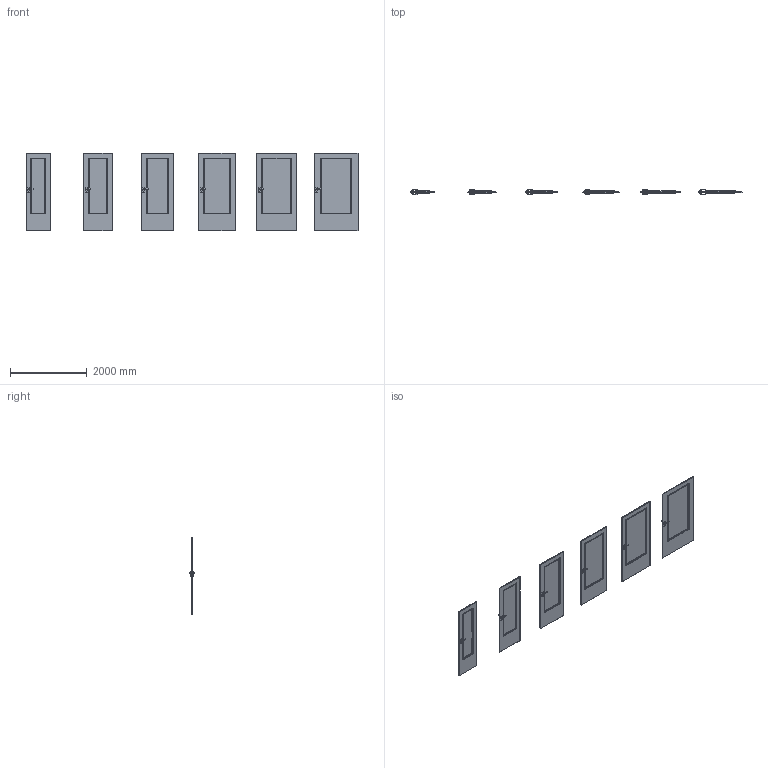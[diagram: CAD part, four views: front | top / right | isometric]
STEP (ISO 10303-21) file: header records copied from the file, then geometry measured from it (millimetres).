
FILE_DESCRIPTION(/* description */ (''),/* implementation_level */ '2;1');
FILE_NAME(/* name */ '049713_A_2-Skrzydło CPL model 1.3_ polska norma _PN__ przylgowe..stp',/* time_stamp */ '2024-02-15T10:13:52+01:00',/* author */ (''),/* organization */ (''),/* preprocessor_version */ 'ST-DEVELOPER v16',/* originating_system */ 'SIEMENS PLM Software NX 11.0',/* authorisation */ '');
FILE_SCHEMA (('AUTOMOTIVE_DESIGN { 1 0 10303 214 3 1 1 1 }'));
Products named in the file (1): bkni76F8D571w1wb
Bounding box: 8644 x 153.27 x 2030 mm (x, y, z)
Volume: 282807684.3 mm3; surface area: 49016290.1 mm2
Topology: 217 solids, 217 shells, 4032 faces, 10266 edges, 6548 vertices
Faces by surface type: plane 2394, bspline 1182, cylinder 288, sphere 168
Entity records: 137846 total; most frequent: CARTESIAN_POINT 49301, ORIENTED_EDGE 20196, DIRECTION 14360, EDGE_CURVE 10098, LINE 6858, VECTOR 6858, VERTEX_POINT 6548, EDGE_LOOP 4116
